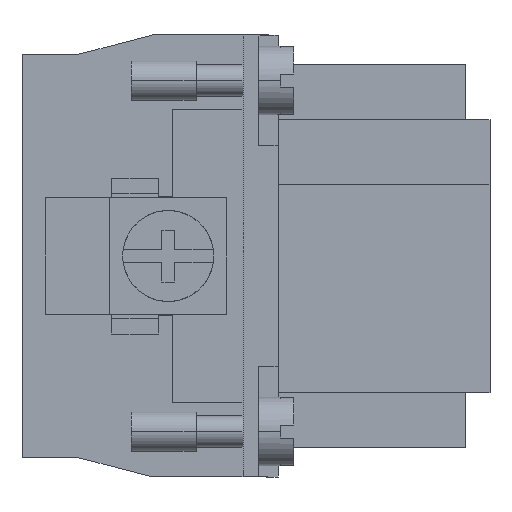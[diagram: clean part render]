
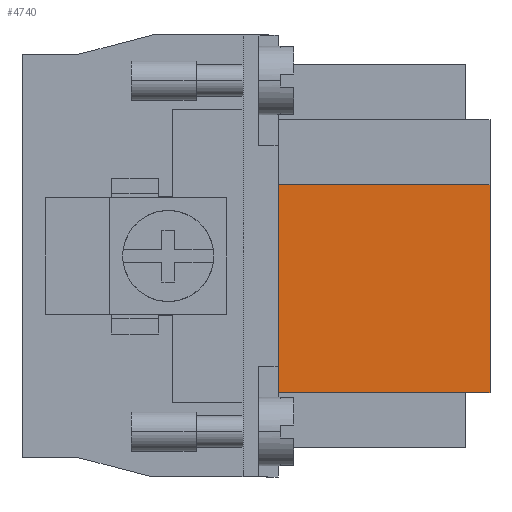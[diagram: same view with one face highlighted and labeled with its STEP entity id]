
A CAD part, left-side view. The second image highlights one B-rep face of the part: STEP entity #4740.
In plain terms, the highlighted planar face has unit normal (-1, 0, 0).
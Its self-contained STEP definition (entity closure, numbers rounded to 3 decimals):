
#68 = ORIENTED_EDGE ( 'NONE', *, *, #13603, .F. ) ;
#114 = VERTEX_POINT ( 'NONE', #15252 ) ;
#925 = LINE ( 'NONE', #8873, #15288 ) ;
#1283 = EDGE_LOOP ( 'NONE', ( #14129, #11990, #2126, #68 ) ) ;
#1886 = VECTOR ( 'NONE', #7779, 1000. ) ;
#2053 = DIRECTION ( 'NONE',  ( 0., 1., 0. ) ) ;
#2126 = ORIENTED_EDGE ( 'NONE', *, *, #14754, .F. ) ;
#2501 = VERTEX_POINT ( 'NONE', #12738 ) ;
#3524 = PLANE ( 'NONE',  #4186 ) ;
#4186 = AXIS2_PLACEMENT_3D ( 'NONE', #7420, #6147, #16711 ) ;
#4589 = LINE ( 'NONE', #13054, #10947 ) ;
#4676 = EDGE_CURVE ( 'NONE', #8297, #12155, #9426, .T. ) ;
#4740 = ADVANCED_FACE ( 'NONE', ( #13750 ), #3524, .F. ) ;
#6136 = VECTOR ( 'NONE', #7543, 1000. ) ;
#6147 = DIRECTION ( 'NONE',  ( 1., 0., 0. ) ) ;
#6440 = CARTESIAN_POINT ( 'NONE',  ( -22., -32.579, -10.5 ) ) ;
#7420 = CARTESIAN_POINT ( 'NONE',  ( -22., -32.579, 5.5 ) ) ;
#7543 = DIRECTION ( 'NONE',  ( 0., 0., -1. ) ) ;
#7779 = DIRECTION ( 'NONE',  ( 0., 1., 0. ) ) ;
#7783 = DIRECTION ( 'NONE',  ( 0., 0., -1. ) ) ;
#8297 = VERTEX_POINT ( 'NONE', #16865 ) ;
#8873 = CARTESIAN_POINT ( 'NONE',  ( -22., -32.579, 5.5 ) ) ;
#9426 = LINE ( 'NONE', #12763, #6136 ) ;
#10947 = VECTOR ( 'NONE', #7783, 1000. ) ;
#11990 = ORIENTED_EDGE ( 'NONE', *, *, #4676, .T. ) ;
#12155 = VERTEX_POINT ( 'NONE', #16017 ) ;
#12738 = CARTESIAN_POINT ( 'NONE',  ( -22., -16.3, 5.5 ) ) ;
#12763 = CARTESIAN_POINT ( 'NONE',  ( -22., 0., 0. ) ) ;
#12764 = LINE ( 'NONE', #6440, #1886 ) ;
#13054 = CARTESIAN_POINT ( 'NONE',  ( -22., -16.3, 5.5 ) ) ;
#13591 = EDGE_CURVE ( 'NONE', #2501, #8297, #925, .T. ) ;
#13603 = EDGE_CURVE ( 'NONE', #2501, #114, #4589, .T. ) ;
#13750 = FACE_OUTER_BOUND ( 'NONE', #1283, .T. ) ;
#14129 = ORIENTED_EDGE ( 'NONE', *, *, #13591, .T. ) ;
#14754 = EDGE_CURVE ( 'NONE', #114, #12155, #12764, .T. ) ;
#15252 = CARTESIAN_POINT ( 'NONE',  ( -22., -16.3, -10.5 ) ) ;
#15288 = VECTOR ( 'NONE', #2053, 1000. ) ;
#16017 = CARTESIAN_POINT ( 'NONE',  ( -22., 0., -10.5 ) ) ;
#16711 = DIRECTION ( 'NONE',  ( 0., 1., 0. ) ) ;
#16865 = CARTESIAN_POINT ( 'NONE',  ( -22., 0., 5.5 ) ) ;
